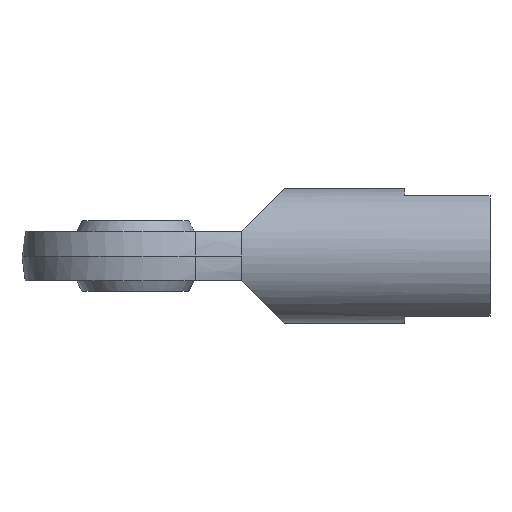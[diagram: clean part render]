
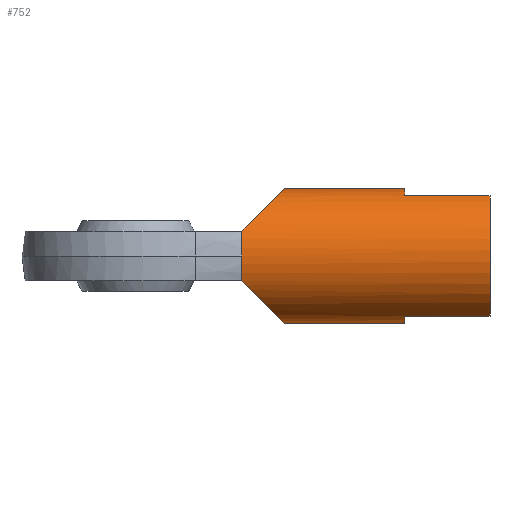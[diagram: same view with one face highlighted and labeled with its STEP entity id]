
A CAD part, front view. The second image highlights one B-rep face of the part: STEP entity #752.
In plain terms, the highlighted cylindrical face has radius 9.5 mm (diameter 19 mm), a partial arc.
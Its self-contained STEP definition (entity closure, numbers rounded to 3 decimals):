
#420 = VERTEX_POINT ( 'NONE', #1025 ) ;
#421 = EDGE_CURVE ( 'NONE', #420, #497, #955, .T. ) ;
#447 = VERTEX_POINT ( 'NONE', #1041 ) ;
#449 = EDGE_CURVE ( 'NONE', #477, #450, #1039, .T. ) ;
#450 = VERTEX_POINT ( 'NONE', #1064 ) ;
#453 = EDGE_CURVE ( 'NONE', #454, #447, #1078, .T. ) ;
#454 = VERTEX_POINT ( 'NONE', #1070 ) ;
#477 = VERTEX_POINT ( 'NONE', #1145 ) ;
#497 = VERTEX_POINT ( 'NONE', #1118 ) ;
#538 = ORIENTED_EDGE ( 'NONE', *, *, #449, .F. ) ;
#606 = ORIENTED_EDGE ( 'NONE', *, *, #607, .F. ) ;
#607 = EDGE_CURVE ( 'NONE', #608, #447, #1266, .T. ) ;
#608 = VERTEX_POINT ( 'NONE', #1343 ) ;
#616 = ORIENTED_EDGE ( 'NONE', *, *, #453, .T. ) ;
#636 = ORIENTED_EDGE ( 'NONE', *, *, #421, .T. ) ;
#637 = ORIENTED_EDGE ( 'NONE', *, *, #638, .F. ) ;
#638 = EDGE_CURVE ( 'NONE', #454, #497, #1328, .T. ) ;
#639 = EDGE_LOOP ( 'NONE', ( #538, #744, #747, #636, #637, #616, #606, #772, #686, #689, #692 ) ) ;
#685 = VERTEX_POINT ( 'NONE', #1301 ) ;
#686 = ORIENTED_EDGE ( 'NONE', *, *, #687, .F. ) ;
#687 = EDGE_CURVE ( 'NONE', #688, #685, #1300, .T. ) ;
#688 = VERTEX_POINT ( 'NONE', #1295 ) ;
#689 = ORIENTED_EDGE ( 'NONE', *, *, #690, .F. ) ;
#690 = EDGE_CURVE ( 'NONE', #691, #688, #1294, .T. ) ;
#691 = VERTEX_POINT ( 'NONE', #1290 ) ;
#692 = ORIENTED_EDGE ( 'NONE', *, *, #749, .F. ) ;
#695 = EDGE_CURVE ( 'NONE', #746, #420, #1418, .T. ) ;
#744 = ORIENTED_EDGE ( 'NONE', *, *, #745, .F. ) ;
#745 = EDGE_CURVE ( 'NONE', #746, #477, #1507, .T. ) ;
#746 = VERTEX_POINT ( 'NONE', #1509 ) ;
#747 = ORIENTED_EDGE ( 'NONE', *, *, #695, .T. ) ;
#749 = EDGE_CURVE ( 'NONE', #450, #691, #1502, .T. ) ;
#752 = ADVANCED_FACE ( 'NONE', ( #1534 ), #1539, .T. ) ;
#772 = ORIENTED_EDGE ( 'NONE', *, *, #773, .F. ) ;
#773 = EDGE_CURVE ( 'NONE', #685, #608, #1565, .T. ) ;
#872 = VECTOR ( 'NONE', #1056, 1000. ) ;
#955 = CIRCLE ( 'NONE', #971, 9.5 ) ;
#968 = DIRECTION ( 'NONE',  ( 0., 1., 0. ) ) ;
#969 = DIRECTION ( 'NONE',  ( 1., 0., 0. ) ) ;
#970 = CARTESIAN_POINT ( 'NONE',  ( 15., 0., 0. ) ) ;
#971 = AXIS2_PLACEMENT_3D ( 'NONE', #970, #969, #968 ) ;
#1025 = CARTESIAN_POINT ( 'NONE',  ( 15., -9.5, 0. ) ) ;
#1038 = CARTESIAN_POINT ( 'NONE',  ( 15., 0., 9.5 ) ) ;
#1039 = LINE ( 'NONE', #1038, #872 ) ;
#1041 = CARTESIAN_POINT ( 'NONE',  ( 38., 0., -9.5 ) ) ;
#1056 = DIRECTION ( 'NONE',  ( 1., 0., 0. ) ) ;
#1064 = CARTESIAN_POINT ( 'NONE',  ( 38., 0., 9.5 ) ) ;
#1069 = DIRECTION ( 'NONE',  ( 1., 0., 0. ) ) ;
#1070 = CARTESIAN_POINT ( 'NONE',  ( 21., 0., -9.5 ) ) ;
#1072 = VECTOR ( 'NONE', #1069, 1000. ) ;
#1078 = LINE ( 'NONE', #1079, #1072 ) ;
#1079 = CARTESIAN_POINT ( 'NONE',  ( 15., 0., -9.5 ) ) ;
#1118 = CARTESIAN_POINT ( 'NONE',  ( 15., -8.832, -3.5 ) ) ;
#1145 = CARTESIAN_POINT ( 'NONE',  ( 21., 0., 9.5 ) ) ;
#1266 = CIRCLE ( 'NONE', #1347, 9.5 ) ;
#1281 = CARTESIAN_POINT ( 'NONE',  ( 15., -8.832, -3.5 ) ) ;
#1282 = CARTESIAN_POINT ( 'NONE',  ( 18.74, -7.35, -7.24 ) ) ;
#1289 = CARTESIAN_POINT ( 'NONE',  ( 15., 0., 0. ) ) ;
#1290 = CARTESIAN_POINT ( 'NONE',  ( 38., -4.243, 8.5 ) ) ;
#1291 = DIRECTION ( 'NONE',  ( 1., 0., 0. ) ) ;
#1292 = VECTOR ( 'NONE', #1291, 1000. ) ;
#1293 = CARTESIAN_POINT ( 'NONE',  ( 15., -4.243, 8.5 ) ) ;
#1294 = LINE ( 'NONE', #1293, #1292 ) ;
#1295 = CARTESIAN_POINT ( 'NONE',  ( 50., -4.243, 8.5 ) ) ;
#1296 = DIRECTION ( 'NONE',  ( 0., 0., -1. ) ) ;
#1297 = DIRECTION ( 'NONE',  ( 1., 0., 0. ) ) ;
#1298 = CARTESIAN_POINT ( 'NONE',  ( 50., 0., 0. ) ) ;
#1299 = AXIS2_PLACEMENT_3D ( 'NONE', #1298, #1297, #1296 ) ;
#1300 = CIRCLE ( 'NONE', #1299, 9.5 ) ;
#1301 = CARTESIAN_POINT ( 'NONE',  ( 50., -4.243, -8.5 ) ) ;
#1326 = CARTESIAN_POINT ( 'NONE',  ( 21., -4.022, -9.5 ) ) ;
#1327 = CARTESIAN_POINT ( 'NONE',  ( 21., 0., -9.5 ) ) ;
#1328 =( BOUNDED_CURVE ( )  B_SPLINE_CURVE ( 3, ( #1327, #1326, #1282, #1281 ),
 .UNSPECIFIED., .F., .T. ) 
 B_SPLINE_CURVE_WITH_KNOTS ( ( 4, 4 ),
 ( 0., 1.193 ),
 .UNSPECIFIED. ) 
 CURVE ( )  GEOMETRIC_REPRESENTATION_ITEM ( )  RATIONAL_B_SPLINE_CURVE ( ( 1., 0.885, 0.885, 1. ) ) 
 REPRESENTATION_ITEM ( '' )  );
#1343 = CARTESIAN_POINT ( 'NONE',  ( 38., -4.243, -8.5 ) ) ;
#1344 = DIRECTION ( 'NONE',  ( 0., 0., 1. ) ) ;
#1345 = DIRECTION ( 'NONE',  ( 1., 0., 0. ) ) ;
#1346 = CARTESIAN_POINT ( 'NONE',  ( 38., 0., 0. ) ) ;
#1347 = AXIS2_PLACEMENT_3D ( 'NONE', #1346, #1345, #1344 ) ;
#1415 = DIRECTION ( 'NONE',  ( 0., 1., 0. ) ) ;
#1416 = DIRECTION ( 'NONE',  ( 1., 0., 0. ) ) ;
#1417 = AXIS2_PLACEMENT_3D ( 'NONE', #1289, #1416, #1415 ) ;
#1418 = CIRCLE ( 'NONE', #1417, 9.5 ) ;
#1499 = DIRECTION ( 'NONE',  ( 0., 0., 1. ) ) ;
#1500 = DIRECTION ( 'NONE',  ( 1., 0., 0. ) ) ;
#1501 = AXIS2_PLACEMENT_3D ( 'NONE', #1508, #1500, #1499 ) ;
#1502 = CIRCLE ( 'NONE', #1501, 9.5 ) ;
#1503 = CARTESIAN_POINT ( 'NONE',  ( 21., 0., 9.5 ) ) ;
#1504 = CARTESIAN_POINT ( 'NONE',  ( 21., -4.022, 9.5 ) ) ;
#1505 = CARTESIAN_POINT ( 'NONE',  ( 18.74, -7.35, 7.24 ) ) ;
#1506 = CARTESIAN_POINT ( 'NONE',  ( 15., -8.832, 3.5 ) ) ;
#1507 =( BOUNDED_CURVE ( )  B_SPLINE_CURVE ( 3, ( #1506, #1505, #1504, #1503 ),
 .UNSPECIFIED., .F., .T. ) 
 B_SPLINE_CURVE_WITH_KNOTS ( ( 4, 4 ),
 ( 5.09, 6.283 ),
 .UNSPECIFIED. ) 
 CURVE ( )  GEOMETRIC_REPRESENTATION_ITEM ( )  RATIONAL_B_SPLINE_CURVE ( ( 1., 0.885, 0.885, 1. ) ) 
 REPRESENTATION_ITEM ( '' )  );
#1508 = CARTESIAN_POINT ( 'NONE',  ( 38., 0., 0. ) ) ;
#1509 = CARTESIAN_POINT ( 'NONE',  ( 15., -8.832, 3.5 ) ) ;
#1534 = FACE_OUTER_BOUND ( 'NONE', #639, .T. ) ;
#1535 = DIRECTION ( 'NONE',  ( 0., 0., -1. ) ) ;
#1536 = DIRECTION ( 'NONE',  ( 1., 0., 0. ) ) ;
#1537 = CARTESIAN_POINT ( 'NONE',  ( 15., 0., 0. ) ) ;
#1538 = AXIS2_PLACEMENT_3D ( 'NONE', #1537, #1536, #1535 ) ;
#1539 = CYLINDRICAL_SURFACE ( 'NONE', #1538, 9.5 ) ;
#1565 = LINE ( 'NONE', #1592, #1591 ) ;
#1590 = DIRECTION ( 'NONE',  ( -1., 0., 0. ) ) ;
#1591 = VECTOR ( 'NONE', #1590, 1000. ) ;
#1592 = CARTESIAN_POINT ( 'NONE',  ( 15., -4.243, -8.5 ) ) ;
